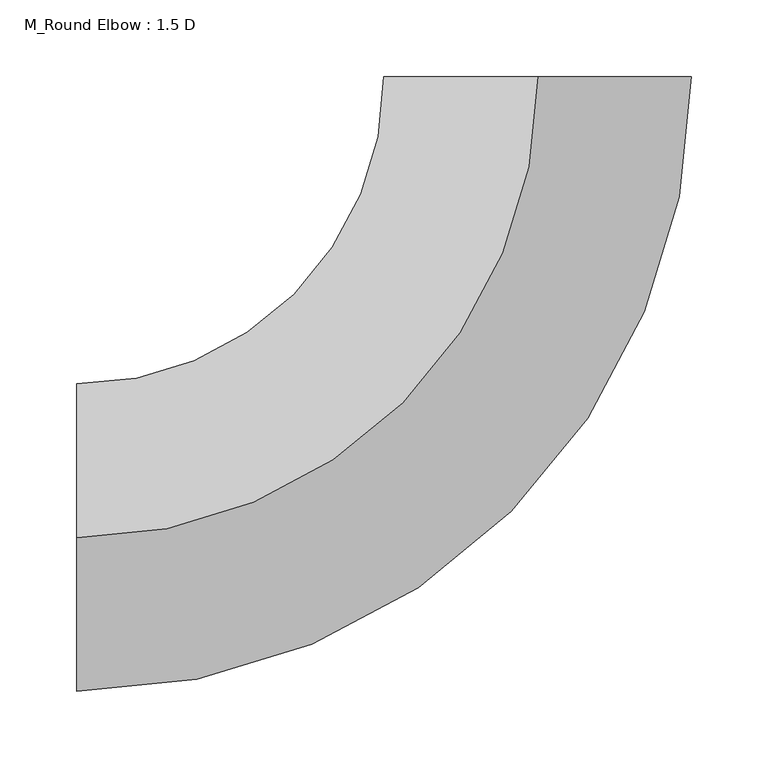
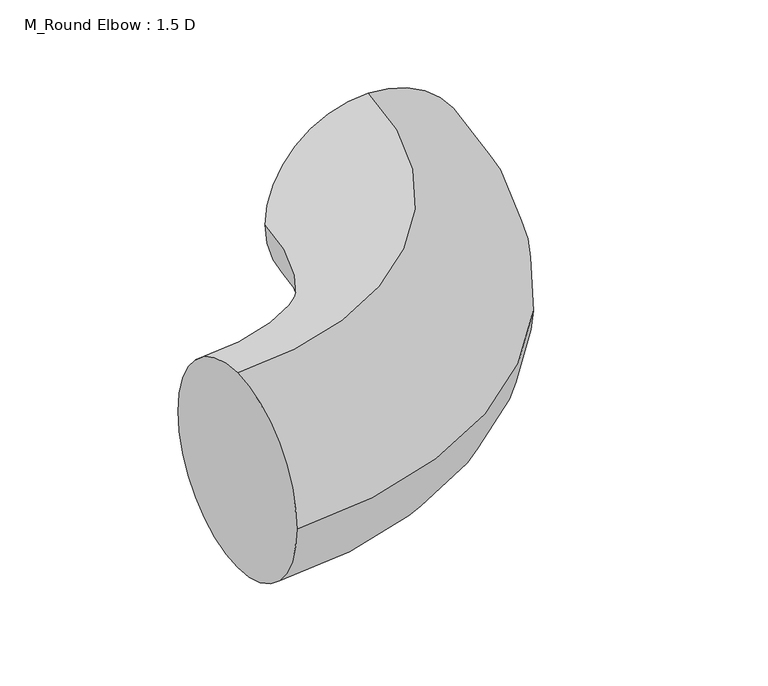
"""IFC4 building model written with IfcOpenShell, lengths in millimetres: duct fitting geometry, M_Round Elbow : 1.5 D."""

from ifc_helpers import new_model, si_unit, point, frame, origin, place, context, project, spatial, circle_curve, ellipse_curve, trimmed, source, transform, mapped, element, save
from ifc_brep_helpers import plane_surface, revolved_surface, advanced_brep


def m_round_elbow_1_5_d_f82de0da(model_context):
    return source(origin(), model_context, "Body", "AdvancedBrep", [
        advanced_brep(
        [(-299.9942308, 0.0, 100.0), (-299.9942308, 100.0, 0.0), (-299.9942308, 0.0, -100.0), (-299.9942308, -100.0, 0.0), (0.0057691, 299.9942308, 100.0), (100.0057691, 299.9923077, 0.0), (0.0057691, 299.9942308, -100.0), (-99.9942309, 299.9961538, 0.0)],
        [
            (0, 1, circle_curve(frame((-299.9942308, 0.0, 0.0), z_axis=(-1.0, 0.0, 0.0), x_axis=(0.0, 1.0, 0.0)), 100.0)),
            (1, 2, circle_curve(frame((-299.9942308, 0.0, 0.0), z_axis=(-1.0, 0.0, 0.0), x_axis=(0.0, 1.0, 0.0)), 100.0)),
            (2, 3, circle_curve(frame((-299.9942308, 0.0, 0.0), z_axis=(-1.0, 0.0, 0.0), x_axis=(0.0, 1.0, 0.0)), 100.0)),
            (3, 0, circle_curve(frame((-299.9942308, 0.0, 0.0), z_axis=(-1.0, 0.0, 0.0), x_axis=(0.0, 1.0, 0.0)), 100.0)),
            (4, 5, circle_curve(frame((0.0057691, 299.9942308, 0.0), z_axis=(1.923076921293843e-05, 0.9999999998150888, 0.0), x_axis=(-0.9999999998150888, 1.923076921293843e-05, 0.0)), 100.0)),
            (5, 6, circle_curve(frame((0.0057691, 299.9942308, 0.0), z_axis=(1.923076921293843e-05, 0.9999999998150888, 0.0), x_axis=(-0.9999999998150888, 1.923076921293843e-05, 0.0)), 100.0)),
            (6, 7, circle_curve(frame((0.0057691, 299.9942308, 0.0), z_axis=(1.923076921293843e-05, 0.9999999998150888, 0.0), x_axis=(-0.9999999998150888, 1.923076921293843e-05, 0.0)), 100.0)),
            (7, 4, circle_curve(frame((0.0057691, 299.9942308, 0.0), z_axis=(1.923076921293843e-05, 0.9999999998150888, 0.0), x_axis=(-0.9999999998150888, 1.923076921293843e-05, 0.0)), 100.0)),
            (7, 1, circle_curve(frame((-299.9942308, 300.0, 0.0), z_axis=(0.0, 0.0, -1.0), x_axis=(0.0, -1.0, 0.0)), 200.0)),
            (0, 4, circle_curve(frame((-299.9942308, 300.0, 100.0), z_axis=(0.0, 0.0, 1.0), x_axis=(0.0, -1.0, 0.0)), 300.0)),
            (6, 2, circle_curve(frame((-299.9942308, 300.0, -100.0), z_axis=(0.0, 0.0, -1.0), x_axis=(0.0, -1.0, 0.0)), 300.0)),
            (5, 3, circle_curve(frame((-299.9942308, 300.0, 0.0), z_axis=(0.0, 0.0, -1.0), x_axis=(0.0, -1.0, 0.0)), 400.0)),
        ],
        [
            plane_surface(frame((-299.9942308, 0.0, 0.0), z_axis=(-1.0, 0.0, 0.0), x_axis=(0.0, 0.0, 1.0))),
            plane_surface(frame((0.0057691, 299.9942308, 0.0), z_axis=(1.9230769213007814e-05, 0.9999999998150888, 0.0), x_axis=(0.0, 0.0, 1.0))),
            revolved_surface(trimmed(ellipse_curve(frame((-299.9942308, 0.0, 0.0), z_axis=(-1.0, 0.0, 0.0), x_axis=(0.0, 1.0, 0.0)), 100.0, 100.0), [point((-299.9942308, 0.0, 100.0))], [point((-299.9942308, 100.0, 0.0))], True, "CARTESIAN"), (-299.9942308, 300.0, 0.0), (0.0, 0.0, 1.0)),
            revolved_surface(trimmed(ellipse_curve(frame((-299.9942308, 0.0, 0.0), z_axis=(-1.0, 0.0, 0.0), x_axis=(0.0, 1.0, 0.0)), 100.0, 100.0), [point((-299.9942308, 100.0, 0.0))], [point((-299.9942308, 0.0, -100.0))], True, "CARTESIAN"), (-299.9942308, 300.0, 0.0), (0.0, 0.0, 1.0)),
            revolved_surface(trimmed(ellipse_curve(frame((-299.9942308, 0.0, 0.0), z_axis=(-1.0, 0.0, 0.0), x_axis=(0.0, 1.0, 0.0)), 100.0, 100.0), [point((-299.9942308, 0.0, -100.0))], [point((-299.9942308, -100.0, 0.0))], True, "CARTESIAN"), (-299.9942308, 300.0, 0.0), (0.0, 0.0, 1.0)),
            revolved_surface(trimmed(ellipse_curve(frame((-299.9942308, 0.0, 0.0), z_axis=(-1.0, 0.0, 0.0), x_axis=(0.0, 1.0, 0.0)), 100.0, 100.0), [point((-299.9942308, -100.0, 0.0))], [point((-299.9942308, 0.0, 100.0))], True, "CARTESIAN"), (-299.9942308, 300.0, 0.0), (0.0, 0.0, 1.0)),
        ],
        [
            (0, [[1, 2, 3, 4]]),
            (1, [[5, 6, 7, 8]]),
            (2, [[9, -1, 10, -8]]),
            (3, [[11, -2, -9, -7]]),
            (4, [[12, -3, -11, -6]]),
            (5, [[-10, -4, -12, -5]]),
        ],
    ),
        advanced_brep(
        [(-299.9942308, 0.0, 100.0), (-299.9942308, 100.0, 0.0), (-299.9942308, 0.0, -100.0), (-299.9942308, -100.0, 0.0), (0.0057691, 299.9942308, 100.0), (100.0057691, 299.9923077, 0.0), (0.0057691, 299.9942308, -100.0), (-99.9942309, 299.9961538, 0.0)],
        [
            (0, 1, circle_curve(frame((-299.9942308, 0.0, 0.0), z_axis=(-1.0, 0.0, 0.0), x_axis=(0.0, 1.0, 0.0)), 100.0)),
            (1, 2, circle_curve(frame((-299.9942308, 0.0, 0.0), z_axis=(-1.0, 0.0, 0.0), x_axis=(0.0, 1.0, 0.0)), 100.0)),
            (2, 3, circle_curve(frame((-299.9942308, 0.0, 0.0), z_axis=(-1.0, 0.0, 0.0), x_axis=(0.0, 1.0, 0.0)), 100.0)),
            (3, 0, circle_curve(frame((-299.9942308, 0.0, 0.0), z_axis=(-1.0, 0.0, 0.0), x_axis=(0.0, 1.0, 0.0)), 100.0)),
            (4, 5, circle_curve(frame((0.0057691, 299.9942308, 0.0), z_axis=(1.923076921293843e-05, 0.9999999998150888, 0.0), x_axis=(-0.9999999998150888, 1.923076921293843e-05, 0.0)), 100.0)),
            (5, 6, circle_curve(frame((0.0057691, 299.9942308, 0.0), z_axis=(1.923076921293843e-05, 0.9999999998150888, 0.0), x_axis=(-0.9999999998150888, 1.923076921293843e-05, 0.0)), 100.0)),
            (6, 7, circle_curve(frame((0.0057691, 299.9942308, 0.0), z_axis=(1.923076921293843e-05, 0.9999999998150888, 0.0), x_axis=(-0.9999999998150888, 1.923076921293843e-05, 0.0)), 100.0)),
            (7, 4, circle_curve(frame((0.0057691, 299.9942308, 0.0), z_axis=(1.923076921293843e-05, 0.9999999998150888, 0.0), x_axis=(-0.9999999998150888, 1.923076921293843e-05, 0.0)), 100.0)),
            (7, 1, circle_curve(frame((-299.9942308, 300.0, 0.0), z_axis=(0.0, 0.0, -1.0), x_axis=(0.0, -1.0, 0.0)), 200.0)),
            (0, 4, circle_curve(frame((-299.9942308, 300.0, 100.0), z_axis=(0.0, 0.0, 1.0), x_axis=(0.0, -1.0, 0.0)), 300.0)),
            (6, 2, circle_curve(frame((-299.9942308, 300.0, -100.0), z_axis=(0.0, 0.0, -1.0), x_axis=(0.0, -1.0, 0.0)), 300.0)),
            (5, 3, circle_curve(frame((-299.9942308, 300.0, 0.0), z_axis=(0.0, 0.0, -1.0), x_axis=(0.0, -1.0, 0.0)), 400.0)),
        ],
        [
            plane_surface(frame((-299.9942308, 0.0, 0.0), z_axis=(-1.0, 0.0, 0.0), x_axis=(0.0, 0.0, 1.0))),
            plane_surface(frame((0.0057691, 299.9942308, 0.0), z_axis=(1.9230769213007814e-05, 0.9999999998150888, 0.0), x_axis=(0.0, 0.0, 1.0))),
            revolved_surface(trimmed(ellipse_curve(frame((-299.9942308, 0.0, 0.0), z_axis=(-1.0, 0.0, 0.0), x_axis=(0.0, 1.0, 0.0)), 100.0, 100.0), [point((-299.9942308, 0.0, 100.0))], [point((-299.9942308, 100.0, 0.0))], True, "CARTESIAN"), (-299.9942308, 300.0, 0.0), (0.0, 0.0, 1.0)),
            revolved_surface(trimmed(ellipse_curve(frame((-299.9942308, 0.0, 0.0), z_axis=(-1.0, 0.0, 0.0), x_axis=(0.0, 1.0, 0.0)), 100.0, 100.0), [point((-299.9942308, 100.0, 0.0))], [point((-299.9942308, 0.0, -100.0))], True, "CARTESIAN"), (-299.9942308, 300.0, 0.0), (0.0, 0.0, 1.0)),
            revolved_surface(trimmed(ellipse_curve(frame((-299.9942308, 0.0, 0.0), z_axis=(-1.0, 0.0, 0.0), x_axis=(0.0, 1.0, 0.0)), 100.0, 100.0), [point((-299.9942308, 0.0, -100.0))], [point((-299.9942308, -100.0, 0.0))], True, "CARTESIAN"), (-299.9942308, 300.0, 0.0), (0.0, 0.0, 1.0)),
            revolved_surface(trimmed(ellipse_curve(frame((-299.9942308, 0.0, 0.0), z_axis=(-1.0, 0.0, 0.0), x_axis=(0.0, 1.0, 0.0)), 100.0, 100.0), [point((-299.9942308, -100.0, 0.0))], [point((-299.9942308, 0.0, 100.0))], True, "CARTESIAN"), (-299.9942308, 300.0, 0.0), (0.0, 0.0, 1.0)),
        ],
        [
            (0, [[1, 2, 3, 4]]),
            (1, [[5, 6, 7, 8]]),
            (2, [[9, -1, 10, -8]]),
            (3, [[11, -2, -9, -7]]),
            (4, [[12, -3, -11, -6]]),
            (5, [[-10, -4, -12, -5]]),
        ],
    ),
        advanced_brep(
        [(-299.9942308, 0.0, 100.0), (-299.9942308, 100.0, 0.0), (-299.9942308, 0.0, -100.0), (-299.9942308, -100.0, 0.0), (0.0057691, 299.9942308, 100.0), (100.0057691, 299.9923077, 0.0), (0.0057691, 299.9942308, -100.0), (-99.9942309, 299.9961538, 0.0)],
        [
            (0, 1, circle_curve(frame((-299.9942308, 0.0, 0.0), z_axis=(-1.0, 0.0, 0.0), x_axis=(0.0, 1.0, 0.0)), 100.0)),
            (1, 2, circle_curve(frame((-299.9942308, 0.0, 0.0), z_axis=(-1.0, 0.0, 0.0), x_axis=(0.0, 1.0, 0.0)), 100.0)),
            (2, 3, circle_curve(frame((-299.9942308, 0.0, 0.0), z_axis=(-1.0, 0.0, 0.0), x_axis=(0.0, 1.0, 0.0)), 100.0)),
            (3, 0, circle_curve(frame((-299.9942308, 0.0, 0.0), z_axis=(-1.0, 0.0, 0.0), x_axis=(0.0, 1.0, 0.0)), 100.0)),
            (4, 5, circle_curve(frame((0.0057691, 299.9942308, 0.0), z_axis=(1.923076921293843e-05, 0.9999999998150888, 0.0), x_axis=(-0.9999999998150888, 1.923076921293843e-05, 0.0)), 100.0)),
            (5, 6, circle_curve(frame((0.0057691, 299.9942308, 0.0), z_axis=(1.923076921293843e-05, 0.9999999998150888, 0.0), x_axis=(-0.9999999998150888, 1.923076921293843e-05, 0.0)), 100.0)),
            (6, 7, circle_curve(frame((0.0057691, 299.9942308, 0.0), z_axis=(1.923076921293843e-05, 0.9999999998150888, 0.0), x_axis=(-0.9999999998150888, 1.923076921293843e-05, 0.0)), 100.0)),
            (7, 4, circle_curve(frame((0.0057691, 299.9942308, 0.0), z_axis=(1.923076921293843e-05, 0.9999999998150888, 0.0), x_axis=(-0.9999999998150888, 1.923076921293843e-05, 0.0)), 100.0)),
            (7, 1, circle_curve(frame((-299.9942308, 300.0, 0.0), z_axis=(0.0, 0.0, -1.0), x_axis=(0.0, -1.0, 0.0)), 200.0)),
            (0, 4, circle_curve(frame((-299.9942308, 300.0, 100.0), z_axis=(0.0, 0.0, 1.0), x_axis=(0.0, -1.0, 0.0)), 300.0)),
            (6, 2, circle_curve(frame((-299.9942308, 300.0, -100.0), z_axis=(0.0, 0.0, -1.0), x_axis=(0.0, -1.0, 0.0)), 300.0)),
            (5, 3, circle_curve(frame((-299.9942308, 300.0, 0.0), z_axis=(0.0, 0.0, -1.0), x_axis=(0.0, -1.0, 0.0)), 400.0)),
        ],
        [
            plane_surface(frame((-299.9942308, 0.0, 0.0), z_axis=(-1.0, 0.0, 0.0), x_axis=(0.0, 0.0, 1.0))),
            plane_surface(frame((0.0057691, 299.9942308, 0.0), z_axis=(1.9230769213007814e-05, 0.9999999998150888, 0.0), x_axis=(0.0, 0.0, 1.0))),
            revolved_surface(trimmed(ellipse_curve(frame((-299.9942308, 0.0, 0.0), z_axis=(-1.0, 0.0, 0.0), x_axis=(0.0, 1.0, 0.0)), 100.0, 100.0), [point((-299.9942308, 0.0, 100.0))], [point((-299.9942308, 100.0, 0.0))], True, "CARTESIAN"), (-299.9942308, 300.0, 0.0), (0.0, 0.0, 1.0)),
            revolved_surface(trimmed(ellipse_curve(frame((-299.9942308, 0.0, 0.0), z_axis=(-1.0, 0.0, 0.0), x_axis=(0.0, 1.0, 0.0)), 100.0, 100.0), [point((-299.9942308, 100.0, 0.0))], [point((-299.9942308, 0.0, -100.0))], True, "CARTESIAN"), (-299.9942308, 300.0, 0.0), (0.0, 0.0, 1.0)),
            revolved_surface(trimmed(ellipse_curve(frame((-299.9942308, 0.0, 0.0), z_axis=(-1.0, 0.0, 0.0), x_axis=(0.0, 1.0, 0.0)), 100.0, 100.0), [point((-299.9942308, 0.0, -100.0))], [point((-299.9942308, -100.0, 0.0))], True, "CARTESIAN"), (-299.9942308, 300.0, 0.0), (0.0, 0.0, 1.0)),
            revolved_surface(trimmed(ellipse_curve(frame((-299.9942308, 0.0, 0.0), z_axis=(-1.0, 0.0, 0.0), x_axis=(0.0, 1.0, 0.0)), 100.0, 100.0), [point((-299.9942308, -100.0, 0.0))], [point((-299.9942308, 0.0, 100.0))], True, "CARTESIAN"), (-299.9942308, 300.0, 0.0), (0.0, 0.0, 1.0)),
        ],
        [
            (0, [[1, 2, 3, 4]]),
            (1, [[5, 6, 7, 8]]),
            (2, [[9, -1, 10, -8]]),
            (3, [[11, -2, -9, -7]]),
            (4, [[12, -3, -11, -6]]),
            (5, [[-10, -4, -12, -5]]),
        ],
    ),
    ])


if __name__ == "__main__":
    model = new_model("IFC4")
    model_context = context("Model", 3, world=origin())
    ifc_project = project(units=[si_unit("LENGTHUNIT", "METRE", prefix="MILLI")], contexts=[model_context])
    site = spatial("IfcSite", under=ifc_project)
    building = spatial("IfcBuilding", under=site)
    placement = place(None, origin())
    m_round_elbow_1_5_d_shape = m_round_elbow_1_5_d_f82de0da(model_context)
    element("IfcDuctFitting", 1, ObjectType="M_Round Elbow : 1.5 D", at=placement, inside=building, context=model_context, shape_type="MappedRepresentation", body=[
        mapped(m_round_elbow_1_5_d_shape, transform((0.0, 0.0, 0.0), x_axis=(1.0, 0.0, 0.0), y_axis=(0.0, 1.0, 0.0), z_axis=(0.0, 0.0, 1.0))),
    ])
    save(model, "model.ifc")
